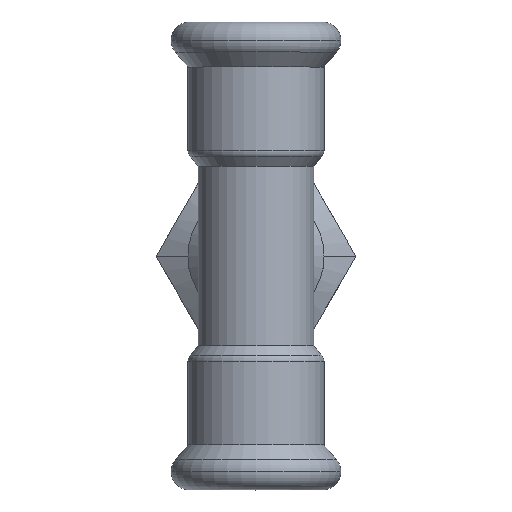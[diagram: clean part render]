
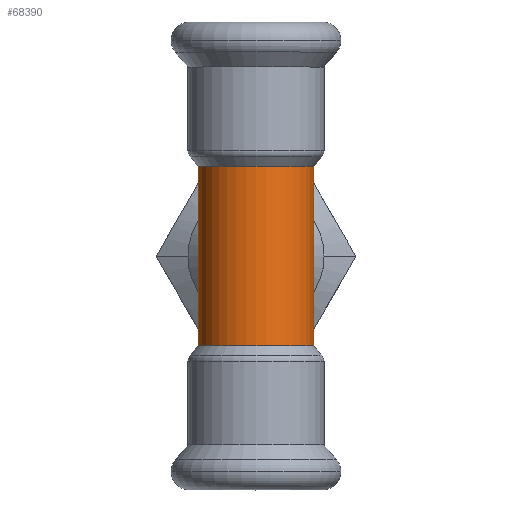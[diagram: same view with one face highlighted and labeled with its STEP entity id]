
A CAD part, top view. The second image highlights one B-rep face of the part: STEP entity #68390.
In plain terms, the highlighted cylindrical face has radius 9 mm (diameter 18 mm), a partial arc.
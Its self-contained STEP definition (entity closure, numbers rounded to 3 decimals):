
#26630=CARTESIAN_POINT('',(278.14,66.404,
-14.));
#26640=DIRECTION('',(0.,0.,-1.));
#26650=DIRECTION('',(-1.,0.,0.));
#26660=AXIS2_PLACEMENT_3D('',#26630,#26640,#26650);
#26670=CYLINDRICAL_SURFACE('',#26660,9.);
#36010=CARTESIAN_POINT('',(287.14,66.404,
-14.));
#36020=DIRECTION('',(0.,0.,-1.));
#36030=VECTOR('',#36020,1.);
#36040=LINE('',#36010,#36030);
#36050=CARTESIAN_POINT('',(287.14,66.404,
14.));
#36060=VERTEX_POINT('',#36050);
#36070=CARTESIAN_POINT('',(287.14,66.404,
-14.));
#36080=VERTEX_POINT('',#36070);
#36090=EDGE_CURVE('',#36060,#36080,#36040,.T.);
#36110=CARTESIAN_POINT('',(278.14,66.404,
-14.));
#36120=DIRECTION('',(0.,0.,-1.));
#36130=DIRECTION('',(1.,0.,0.));
#36140=AXIS2_PLACEMENT_3D('',#36110,#36120,#36130);
#36150=CIRCLE('',#36140,9.);
#36160=CARTESIAN_POINT('',(269.14,66.404,
-14.));
#36170=VERTEX_POINT('',#36160);
#36200=CARTESIAN_POINT('',(269.14,66.404,
-14.));
#36210=DIRECTION('',(0.,0.,-1.));
#36220=VECTOR('',#36210,1.);
#36230=LINE('',#36200,#36220);
#36240=CARTESIAN_POINT('',(269.14,66.404,
14.));
#36250=VERTEX_POINT('',#36240);
#36260=EDGE_CURVE('',#36250,#36170,#36230,.T.);
#36280=CARTESIAN_POINT('',(278.14,66.404,
14.));
#36290=DIRECTION('',(0.,0.,-1.));
#36300=DIRECTION('',(-1.,0.,0.));
#36310=AXIS2_PLACEMENT_3D('',#36280,#36290,#36300);
#36320=CIRCLE('',#36310,9.);
#68310=EDGE_CURVE('',#36170,#36080,#36150,.T.);
#68320=ORIENTED_EDGE('',*,*,#68310,.F.);
#68330=ORIENTED_EDGE('',*,*,#36090,.T.);
#68340=EDGE_CURVE('',#36250,#36060,#36320,.T.);
#68350=ORIENTED_EDGE('',*,*,#68340,.T.);
#68360=ORIENTED_EDGE('',*,*,#36260,.F.);
#68370=EDGE_LOOP('',(#68360,#68350,#68330,#68320));
#68380=FACE_OUTER_BOUND('',#68370,.T.);
#68390=ADVANCED_FACE('',(#68380),#26670,.T.);
